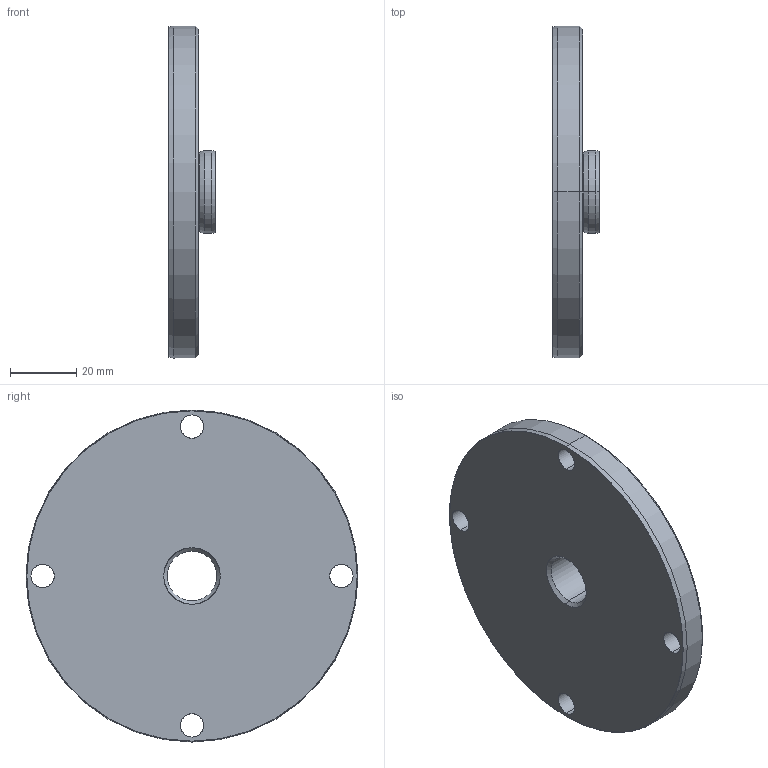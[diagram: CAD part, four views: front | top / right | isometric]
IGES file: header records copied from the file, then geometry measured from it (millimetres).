
Start section: SolidWorks IGES file using analytic representation for surfaces
Global section: file name: R:\Drawings\Files saved as other types\Solid_Models\MODELS FOR PUBLIC\34833 TOMBSTONE PILOT.IGS; native system: SolidWorks 2012; preprocessor: SolidWorks 2012; author: rtooley; date: 140918.125601; units: millimetre
Bounding box: 14 x 100 x 100 mm (x, y, z)
Surface area: 19433.5 mm2 (no closed solid volume)
Topology: 0 solids, 0 shells, 43 faces, 688 edges, 688 vertices
Faces by surface type: revolution 36, bspline 7
